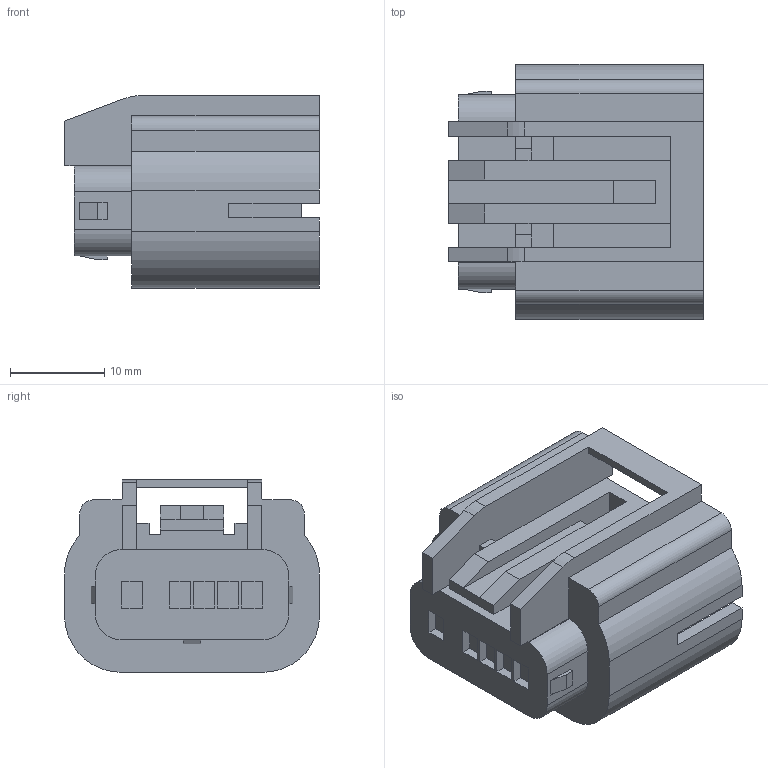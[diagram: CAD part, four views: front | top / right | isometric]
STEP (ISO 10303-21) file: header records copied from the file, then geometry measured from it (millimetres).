
FILE_DESCRIPTION(('CATIA V5 STEP Exchange'),'2;1');
FILE_NAME('N:\C-DAM_MyDesk\ENV\900093\6189-6936.stp','2013-06-13T07:23:30+00:00',('none'),('none'),'CATIA Version 5 Release 20 SP 4 (IN-10)','CATIA V5 STEP AP203','none');
FILE_SCHEMA(('CONFIG_CONTROL_DESIGN'));
Length unit declared in the file: millimetre
Products named in the file (1): 6189-6936
Bounding box: 27 x 27 x 20.4 mm (x, y, z)
Volume: 6601.4 mm3; surface area: 5755.2 mm2
Topology: 1 solids, 1 shells, 173 faces, 470 edges, 312 vertices
Faces by surface type: plane 149, cylinder 24
Entity records: 5127 total; most frequent: ORIENTED_EDGE 940, CARTESIAN_POINT 905, DIRECTION 714, EDGE_CURVE 470, VECTOR 422, LINE 422, VERTEX_POINT 312, EDGE_LOOP 190
